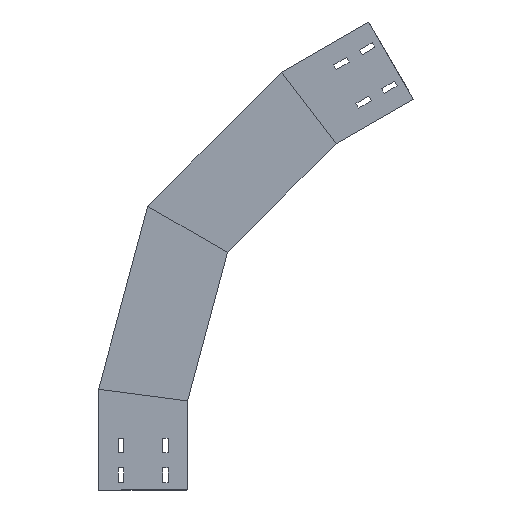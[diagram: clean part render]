
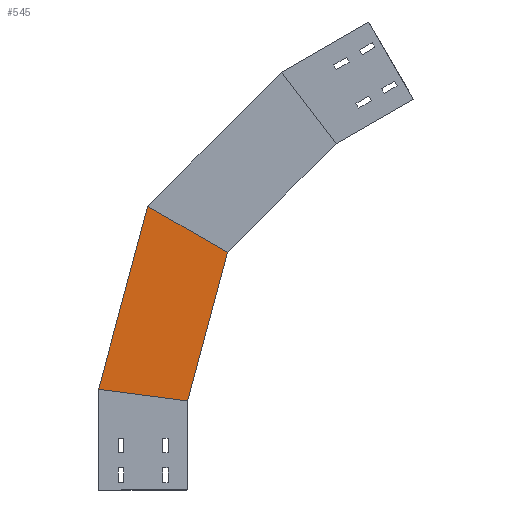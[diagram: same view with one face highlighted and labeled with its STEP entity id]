
A CAD part, left-side view. The second image highlights one B-rep face of the part: STEP entity #545.
In plain terms, the highlighted planar face has unit normal (-1, 0, 0) as drawn and (1, 0, 0) by its records, which use the part's own axes.
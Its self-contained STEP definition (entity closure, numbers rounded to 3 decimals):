
#58 = LINE ( 'NONE', #1435, #379 ) ;
#110 = ORIENTED_EDGE ( 'NONE', *, *, #1030, .F. ) ;
#172 = AXIS2_PLACEMENT_3D ( 'NONE', #861, #1404, #378 ) ;
#200 = DIRECTION ( 'NONE',  ( 0., -0.707, 0.707 ) ) ;
#203 = VECTOR ( 'NONE', #2205, 1000. ) ;
#378 = DIRECTION ( 'NONE',  ( 0., 0., -1. ) ) ;
#379 = VECTOR ( 'NONE', #1444, 1000. ) ;
#391 = VERTEX_POINT ( 'NONE', #1835 ) ;
#545 = ADVANCED_FACE ( 'NONE', ( #873 ), #1239, .T. ) ;
#564 = VECTOR ( 'NONE', #200, 1000. ) ;
#605 = EDGE_CURVE ( 'NONE', #849, #391, #1699, .T. ) ;
#795 = VERTEX_POINT ( 'NONE', #1773 ) ;
#834 = LINE ( 'NONE', #1702, #564 ) ;
#849 = VERTEX_POINT ( 'NONE', #2194 ) ;
#861 = CARTESIAN_POINT ( 'NONE',  ( 0., -35.701, 368.842 ) ) ;
#873 = FACE_OUTER_BOUND ( 'NONE', #1866, .T. ) ;
#984 = EDGE_CURVE ( 'NONE', #1794, #391, #834, .T. ) ;
#1030 = EDGE_CURVE ( 'NONE', #795, #1794, #1686, .T. ) ;
#1043 = ORIENTED_EDGE ( 'NONE', *, *, #605, .T. ) ;
#1146 = CARTESIAN_POINT ( 'NONE',  ( 0., -67.034, 400.175 ) ) ;
#1239 = PLANE ( 'NONE',  #172 ) ;
#1372 = DIRECTION ( 'NONE',  ( 0., -0.866, -0.5 ) ) ;
#1404 = DIRECTION ( 'NONE',  ( 1., 0., 0. ) ) ;
#1435 = CARTESIAN_POINT ( 'NONE',  ( 0., 70.365, 474.908 ) ) ;
#1444 = DIRECTION ( 'NONE',  ( 0., -0.707, 0.707 ) ) ;
#1506 = CARTESIAN_POINT ( 'NONE',  ( 0., -274.276, 551.906 ) ) ;
#1557 = CARTESIAN_POINT ( 'NONE',  ( 0., -129.979, 363.834 ) ) ;
#1638 = VECTOR ( 'NONE', #1372, 1000. ) ;
#1653 = ORIENTED_EDGE ( 'NONE', *, *, #2028, .T. ) ;
#1686 = LINE ( 'NONE', #1557, #1638 ) ;
#1699 = LINE ( 'NONE', #1506, #203 ) ;
#1702 = CARTESIAN_POINT ( 'NONE',  ( 0., -35.701, 368.842 ) ) ;
#1773 = CARTESIAN_POINT ( 'NONE',  ( 0., 67.452, 477.821 ) ) ;
#1794 = VERTEX_POINT ( 'NONE', #1146 ) ;
#1835 = CARTESIAN_POINT ( 'NONE',  ( 0., -250.175, 583.315 ) ) ;
#1866 = EDGE_LOOP ( 'NONE', ( #1653, #1043, #2096, #110 ) ) ;
#2028 = EDGE_CURVE ( 'NONE', #795, #849, #58, .T. ) ;
#2096 = ORIENTED_EDGE ( 'NONE', *, *, #984, .F. ) ;
#2194 = CARTESIAN_POINT ( 'NONE',  ( 0., -158.073, 703.345 ) ) ;
#2205 = DIRECTION ( 'NONE',  ( 0., -0.609, -0.793 ) ) ;
